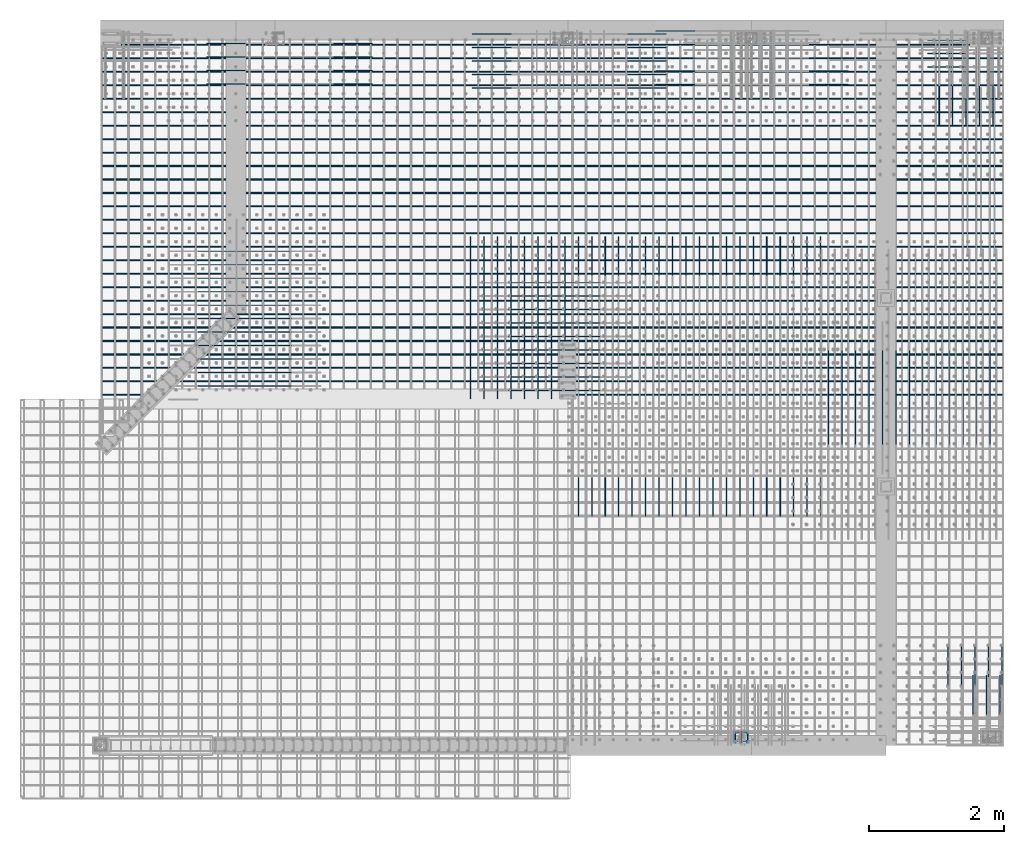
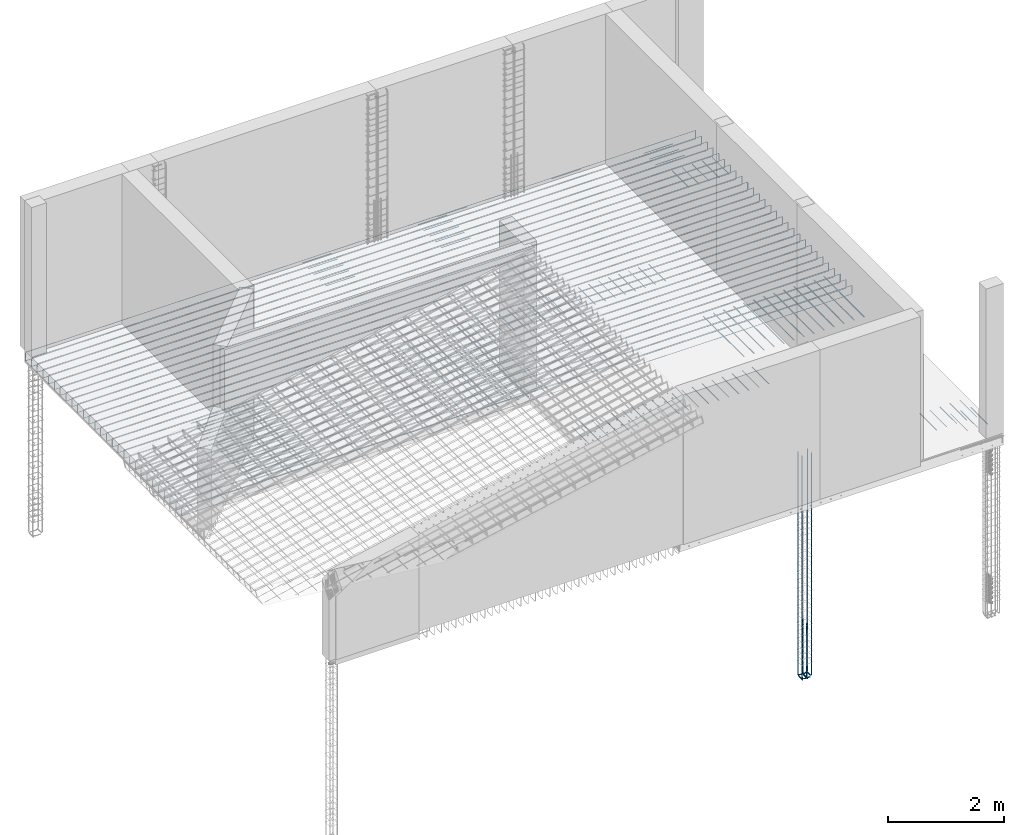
# One storey, part 8 of 17: 8 reinforcing bars.
"""IFC4 building model written with IfcOpenShell, lengths in metres."""

from ifc_helpers import new_model, entity, si_unit, frame, origin_with_axes, place, context, project, spatial, source, transform, mapped, element, save


model = new_model("IFC4")

# Units and contexts
model_context = context("Model", 3, precision=1e-05, world=origin_with_axes())
ifc_project = project(units=[si_unit("LENGTHUNIT", "METRE"), si_unit("AREAUNIT", "SQUARE_METRE"), si_unit("VOLUMEUNIT", "CUBIC_METRE"), si_unit("MASSUNIT", "GRAM", prefix="KILO"), si_unit("TIMEUNIT", "SECOND"), si_unit("PLANEANGLEUNIT", "RADIAN"), si_unit("SOLIDANGLEUNIT", "STERADIAN"), si_unit("THERMODYNAMICTEMPERATUREUNIT", "DEGREE_CELSIUS")], contexts=[model_context])

# Site, building, storey
placement_1 = place(None, origin_with_axes())
site = spatial("IfcSite", under=ifc_project, at=placement_1, Name="Italia", CompositionType="ELEMENT")
building = spatial("IfcBuilding", under=site, at=placement_1, Name="Abitazione", CompositionType="ELEMENT")
storey_placement = place(None, frame((0.0, 0.0, 3.569999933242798), z_axis=(0.0, 0.0, 1.0), x_axis=(1.0, 0.0, 0.0)))
storey = spatial("IfcBuildingStorey", under=building, at=storey_placement, Name="Storey 1", CompositionType="ELEMENT", Elevation=3.569999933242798)

# Reinforcing bars
shared_shape_1 = source(origin_with_axes(), model_context, "Body", "AdvancedSweptSolid", [
    entity("IfcSweptDiskSolid", entity("IfcIndexedPolyCurve", entity("IfcCartesianPointList3D", [[10.777, 0.845, -0.265], [10.67, 0.845, -0.265], [10.649, 0.845, -0.260813], [10.6311, 0.845, -0.248891], [10.6192, 0.845, -0.231048], [10.615, 0.845, -0.21], [10.615, 0.845, 0.8975]]), [entity("IfcLineIndex", [1, 2]), entity("IfcLineIndex", [2, 3]), entity("IfcLineIndex", [3, 4]), entity("IfcLineIndex", [4, 5]), entity("IfcLineIndex", [5, 6]), entity("IfcLineIndex", [6, 7])], False), 0.011),
])
placement_2 = place(placement_1, origin_with_axes())
reinforcing_bar_1_placement = place(placement_2, origin_with_axes())
element("IfcReinforcingBar", 1, at=reinforcing_bar_1_placement, inside=storey, BarLength=1.30034, CrossSectionArea=0.00038013, NominalDiameter=0.022, context=model_context, shape_type="MappedRepresentation", body=[
    mapped(shared_shape_1, transform((9.77, 11.6, 0.0), x_axis=(0.0, -1.0, 0.0), y_axis=(1.0, 0.0, 0.0), z_axis=(0.0, 0.0, 1.0), scale=1.0)),
    mapped(shared_shape_1, transform((0.0, 0.0, 0.0), x_axis=(1.0, 0.0, 0.0), y_axis=(0.0, 1.0, 0.0), z_axis=(0.0, 0.0, 1.0), scale=1.0)),
    mapped(shared_shape_1, transform((11.65, -9.77, 0.0), x_axis=(0.0, 1.0, 0.0), y_axis=(-1.0, 0.0, 0.0), z_axis=(0.0, 0.0, 1.0), scale=1.0)),
    mapped(shared_shape_1, transform((21.42, 1.83, 0.0), x_axis=(-1.0, 0.0, 0.0), y_axis=(0.0, -1.0, 0.0), z_axis=(0.0, 0.0, 1.0), scale=1.0)),
])
shared_shape_2 = source(origin_with_axes(), model_context, "Body", "AdvancedSweptSolid", [
    entity("IfcSweptDiskSolid", entity("IfcIndexedPolyCurve", entity("IfcCartesianPointList3D", [[10.71, 0.826, -0.265], [10.71, 0.948, -0.265], [10.71, 0.963307, -0.261955], [10.71, 0.976284, -0.253284], [10.71, 0.984955, -0.240307], [10.71, 0.988, -0.225], [10.71, 0.988, 0.8975]]), [entity("IfcLineIndex", [1, 2]), entity("IfcLineIndex", [2, 3]), entity("IfcLineIndex", [3, 4]), entity("IfcLineIndex", [4, 5]), entity("IfcLineIndex", [5, 6]), entity("IfcLineIndex", [6, 7])], False), 0.008),
])
reinforcing_bar_2_placement = place(placement_2, origin_with_axes())
element("IfcReinforcingBar", 2, at=reinforcing_bar_2_placement, inside=storey, BarLength=1.30693, CrossSectionArea=0.00020106, NominalDiameter=0.016, context=model_context, shape_type="MappedRepresentation", body=[
    mapped(shared_shape_2, transform((21.42, 1.83, 0.0), x_axis=(-1.0, 0.0, 0.0), y_axis=(0.0, -1.0, 0.0), z_axis=(0.0, 0.0, 1.0), scale=1.0)),
    mapped(shared_shape_2, transform((0.0, 0.0, 0.0), x_axis=(1.0, 0.0, 0.0), y_axis=(0.0, 1.0, 0.0), z_axis=(0.0, 0.0, 1.0), scale=1.0)),
])
shared_shape_3 = source(origin_with_axes(), model_context, "Body", "AdvancedSweptSolid", [
    entity("IfcSweptDiskSolid", entity("IfcIndexedPolyCurve", entity("IfcCartesianPointList3D", [[10.615, 0.845, 0.0], [10.615, 0.845, 4.45]]), [entity("IfcLineIndex", [1, 2])], False), 0.011),
])
reinforcing_bar_3_placement = place(placement_2, origin_with_axes())
element("IfcReinforcingBar", 3, at=reinforcing_bar_3_placement, inside=storey, BarLength=4.45, CrossSectionArea=0.00038013, NominalDiameter=0.022, context=model_context, shape_type="MappedRepresentation", body=[
    mapped(shared_shape_3, transform((0.0, 0.14, 0.0), x_axis=(1.0, 0.0, 0.0), y_axis=(0.0, 1.0, 0.0), z_axis=(0.0, 0.0, 1.0), scale=1.0)),
    mapped(shared_shape_3, transform((0.0, 0.0, 0.0), x_axis=(1.0, 0.0, 0.0), y_axis=(0.0, 1.0, 0.0), z_axis=(0.0, 0.0, 1.0), scale=1.0)),
    mapped(shared_shape_3, transform((0.19, 0.0, 0.0), x_axis=(1.0, 0.0, 0.0), y_axis=(0.0, 1.0, 0.0), z_axis=(0.0, 0.0, 1.0), scale=1.0)),
    mapped(shared_shape_3, transform((0.19, 0.14, 0.0), x_axis=(1.0, 0.0, 0.0), y_axis=(0.0, 1.0, 0.0), z_axis=(0.0, 0.0, 1.0), scale=1.0)),
])
shared_shape_4 = source(origin_with_axes(), model_context, "Body", "AdvancedSweptSolid", [
    entity("IfcSweptDiskSolid", entity("IfcIndexedPolyCurve", entity("IfcCartesianPointList3D", [[1.202, 5.994, 3.374], [1.202, 5.994, 3.53], [1.20276, 5.994, 3.53383], [1.20493, 5.994, 3.53707], [1.20817, 5.994, 3.53924], [1.212, 5.994, 3.54], [14.576, 5.994, 3.54], [14.5798, 5.994, 3.53924], [14.5831, 5.994, 3.53707], [14.5852, 5.994, 3.53383], [14.586, 5.994, 3.53], [14.586, 5.994, 3.374]]), [entity("IfcLineIndex", [1, 2]), entity("IfcLineIndex", [2, 3]), entity("IfcLineIndex", [3, 4]), entity("IfcLineIndex", [4, 5]), entity("IfcLineIndex", [5, 6]), entity("IfcLineIndex", [6, 7]), entity("IfcLineIndex", [7, 8]), entity("IfcLineIndex", [8, 9]), entity("IfcLineIndex", [9, 10]), entity("IfcLineIndex", [10, 11]), entity("IfcLineIndex", [11, 12])], False), 0.006),
])
reinforcing_bar_4_placement = place(placement_2, origin_with_axes())
element("IfcReinforcingBar", 4, at=reinforcing_bar_4_placement, inside=storey, BarLength=13.7072, CrossSectionArea=0.0001131, NominalDiameter=0.012, context=model_context, shape_type="MappedRepresentation", body=[
    mapped(shared_shape_4, transform((0.0, 13.6, 6.89), x_axis=(1.0, 0.0, 0.0), y_axis=(0.0, -1.0, 0.0), z_axis=(0.0, 0.0, -1.0), scale=1.0)),
    mapped(shared_shape_4, transform((0.0, 13.4, 6.89), x_axis=(1.0, 0.0, 0.0), y_axis=(0.0, -1.0, 0.0), z_axis=(0.0, 0.0, -1.0), scale=1.0)),
    mapped(shared_shape_4, transform((0.0, 13.8, 6.89), x_axis=(1.0, 0.0, 0.0), y_axis=(0.0, -1.0, 0.0), z_axis=(0.0, 0.0, -1.0), scale=1.0)),
    mapped(shared_shape_4, transform((0.0, 14.2, 6.89), x_axis=(1.0, 0.0, 0.0), y_axis=(0.0, -1.0, 0.0), z_axis=(0.0, 0.0, -1.0), scale=1.0)),
    mapped(shared_shape_4, transform((0.0, 14.0, 6.89), x_axis=(1.0, 0.0, 0.0), y_axis=(0.0, -1.0, 0.0), z_axis=(0.0, 0.0, -1.0), scale=1.0)),
    mapped(shared_shape_4, transform((0.0, 14.4, 6.89), x_axis=(1.0, 0.0, 0.0), y_axis=(0.0, -1.0, 0.0), z_axis=(0.0, 0.0, -1.0), scale=1.0)),
    mapped(shared_shape_4, transform((0.0, 12.0, 6.89), x_axis=(1.0, 0.0, 0.0), y_axis=(0.0, -1.0, 0.0), z_axis=(0.0, 0.0, -1.0), scale=1.0)),
    mapped(shared_shape_4, transform((0.0, 14.6, 6.89), x_axis=(1.0, 0.0, 0.0), y_axis=(0.0, -1.0, 0.0), z_axis=(0.0, 0.0, -1.0), scale=1.0)),
    mapped(shared_shape_4, transform((0.0, 12.2, 6.89), x_axis=(1.0, 0.0, 0.0), y_axis=(0.0, -1.0, 0.0), z_axis=(0.0, 0.0, -1.0), scale=1.0)),
    mapped(shared_shape_4, transform((0.0, 12.6, 6.89), x_axis=(1.0, 0.0, 0.0), y_axis=(0.0, -1.0, 0.0), z_axis=(0.0, 0.0, -1.0), scale=1.0)),
    mapped(shared_shape_4, transform((0.0, 12.4, 6.89), x_axis=(1.0, 0.0, 0.0), y_axis=(0.0, -1.0, 0.0), z_axis=(0.0, 0.0, -1.0), scale=1.0)),
    mapped(shared_shape_4, transform((0.0, 12.8, 6.89), x_axis=(1.0, 0.0, 0.0), y_axis=(0.0, -1.0, 0.0), z_axis=(0.0, 0.0, -1.0), scale=1.0)),
    mapped(shared_shape_4, transform((0.0, 13.2, 6.89), x_axis=(1.0, 0.0, 0.0), y_axis=(0.0, -1.0, 0.0), z_axis=(0.0, 0.0, -1.0), scale=1.0)),
    mapped(shared_shape_4, transform((0.0, 13.0, 6.89), x_axis=(1.0, 0.0, 0.0), y_axis=(0.0, -1.0, 0.0), z_axis=(0.0, 0.0, -1.0), scale=1.0)),
    mapped(shared_shape_4, transform((0.0, 16.2, 6.89), x_axis=(1.0, 0.0, 0.0), y_axis=(0.0, -1.0, 0.0), z_axis=(0.0, 0.0, -1.0), scale=1.0)),
    mapped(shared_shape_4, transform((0.0, 16.6, 6.89), x_axis=(1.0, 0.0, 0.0), y_axis=(0.0, -1.0, 0.0), z_axis=(0.0, 0.0, -1.0), scale=1.0)),
    mapped(shared_shape_4, transform((0.0, 16.4, 6.89), x_axis=(1.0, 0.0, 0.0), y_axis=(0.0, -1.0, 0.0), z_axis=(0.0, 0.0, -1.0), scale=1.0)),
    mapped(shared_shape_4, transform((0.0, 16.8, 6.89), x_axis=(1.0, 0.0, 0.0), y_axis=(0.0, -1.0, 0.0), z_axis=(0.0, 0.0, -1.0), scale=1.0)),
    mapped(shared_shape_4, transform((0.0, 17.2, 6.89), x_axis=(1.0, 0.0, 0.0), y_axis=(0.0, -1.0, 0.0), z_axis=(0.0, 0.0, -1.0), scale=1.0)),
    mapped(shared_shape_4, transform((0.0, 17.0, 6.89), x_axis=(1.0, 0.0, 0.0), y_axis=(0.0, -1.0, 0.0), z_axis=(0.0, 0.0, -1.0), scale=1.0)),
    mapped(shared_shape_4, transform((0.0, 17.4, 6.89), x_axis=(1.0, 0.0, 0.0), y_axis=(0.0, -1.0, 0.0), z_axis=(0.0, 0.0, -1.0), scale=1.0)),
    mapped(shared_shape_4, transform((0.0, 15.0, 6.89), x_axis=(1.0, 0.0, 0.0), y_axis=(0.0, -1.0, 0.0), z_axis=(0.0, 0.0, -1.0), scale=1.0)),
    mapped(shared_shape_4, transform((0.0, 14.8, 6.89), x_axis=(1.0, 0.0, 0.0), y_axis=(0.0, -1.0, 0.0), z_axis=(0.0, 0.0, -1.0), scale=1.0)),
    mapped(shared_shape_4, transform((0.0, 15.2, 6.89), x_axis=(1.0, 0.0, 0.0), y_axis=(0.0, -1.0, 0.0), z_axis=(0.0, 0.0, -1.0), scale=1.0)),
    mapped(shared_shape_4, transform((0.0, 15.6, 6.89), x_axis=(1.0, 0.0, 0.0), y_axis=(0.0, -1.0, 0.0), z_axis=(0.0, 0.0, -1.0), scale=1.0)),
    mapped(shared_shape_4, transform((0.0, 15.4, 6.89), x_axis=(1.0, 0.0, 0.0), y_axis=(0.0, -1.0, 0.0), z_axis=(0.0, 0.0, -1.0), scale=1.0)),
    mapped(shared_shape_4, transform((0.0, 15.8, 6.89), x_axis=(1.0, 0.0, 0.0), y_axis=(0.0, -1.0, 0.0), z_axis=(0.0, 0.0, -1.0), scale=1.0)),
    mapped(shared_shape_4, transform((0.0, 1.4, 0.0), x_axis=(1.0, 0.0, 0.0), y_axis=(0.0, 1.0, 0.0), z_axis=(0.0, 0.0, 1.0), scale=1.0)),
    mapped(shared_shape_4, transform((0.0, 16.0, 6.89), x_axis=(1.0, 0.0, 0.0), y_axis=(0.0, -1.0, 0.0), z_axis=(0.0, 0.0, -1.0), scale=1.0)),
    mapped(shared_shape_4, transform((0.0, 1.6, 0.0), x_axis=(1.0, 0.0, 0.0), y_axis=(0.0, 1.0, 0.0), z_axis=(0.0, 0.0, 1.0), scale=1.0)),
    mapped(shared_shape_4, transform((0.0, 2.0, 0.0), x_axis=(1.0, 0.0, 0.0), y_axis=(0.0, 1.0, 0.0), z_axis=(0.0, 0.0, 1.0), scale=1.0)),
    mapped(shared_shape_4, transform((0.0, 1.8, 0.0), x_axis=(1.0, 0.0, 0.0), y_axis=(0.0, 1.0, 0.0), z_axis=(0.0, 0.0, 1.0), scale=1.0)),
    mapped(shared_shape_4, transform((0.0, 2.2, 0.0), x_axis=(1.0, 0.0, 0.0), y_axis=(0.0, 1.0, 0.0), z_axis=(0.0, 0.0, 1.0), scale=1.0)),
    mapped(shared_shape_4, transform((0.0, 2.6, 0.0), x_axis=(1.0, 0.0, 0.0), y_axis=(0.0, 1.0, 0.0), z_axis=(0.0, 0.0, 1.0), scale=1.0)),
    mapped(shared_shape_4, transform((0.0, 2.4, 0.0), x_axis=(1.0, 0.0, 0.0), y_axis=(0.0, 1.0, 0.0), z_axis=(0.0, 0.0, 1.0), scale=1.0)),
    mapped(shared_shape_4, transform((0.0, 0.0, 0.0), x_axis=(1.0, 0.0, 0.0), y_axis=(0.0, 1.0, 0.0), z_axis=(0.0, 0.0, 1.0), scale=1.0)),
    mapped(shared_shape_4, transform((0.0, 0.4, 0.0), x_axis=(1.0, 0.0, 0.0), y_axis=(0.0, 1.0, 0.0), z_axis=(0.0, 0.0, 1.0), scale=1.0)),
    mapped(shared_shape_4, transform((0.0, 0.2, 0.0), x_axis=(1.0, 0.0, 0.0), y_axis=(0.0, 1.0, 0.0), z_axis=(0.0, 0.0, 1.0), scale=1.0)),
    mapped(shared_shape_4, transform((0.0, 0.599999, 0.0), x_axis=(1.0, 0.0, 0.0), y_axis=(0.0, 1.0, 0.0), z_axis=(0.0, 0.0, 1.0), scale=1.0)),
    mapped(shared_shape_4, transform((0.0, 0.999999, 0.0), x_axis=(1.0, 0.0, 0.0), y_axis=(0.0, 1.0, 0.0), z_axis=(0.0, 0.0, 1.0), scale=1.0)),
    mapped(shared_shape_4, transform((0.0, 0.799999, 0.0), x_axis=(1.0, 0.0, 0.0), y_axis=(0.0, 1.0, 0.0), z_axis=(0.0, 0.0, 1.0), scale=1.0)),
    mapped(shared_shape_4, transform((0.0, 1.2, 0.0), x_axis=(1.0, 0.0, 0.0), y_axis=(0.0, 1.0, 0.0), z_axis=(0.0, 0.0, 1.0), scale=1.0)),
    mapped(shared_shape_4, transform((0.0, 4.4, 0.0), x_axis=(1.0, 0.0, 0.0), y_axis=(0.0, 1.0, 0.0), z_axis=(0.0, 0.0, 1.0), scale=1.0)),
    mapped(shared_shape_4, transform((0.0, 4.2, 0.0), x_axis=(1.0, 0.0, 0.0), y_axis=(0.0, 1.0, 0.0), z_axis=(0.0, 0.0, 1.0), scale=1.0)),
    mapped(shared_shape_4, transform((0.0, 4.6, 0.0), x_axis=(1.0, 0.0, 0.0), y_axis=(0.0, 1.0, 0.0), z_axis=(0.0, 0.0, 1.0), scale=1.0)),
    mapped(shared_shape_4, transform((0.0, 5.0, 0.0), x_axis=(1.0, 0.0, 0.0), y_axis=(0.0, 1.0, 0.0), z_axis=(0.0, 0.0, 1.0), scale=1.0)),
    mapped(shared_shape_4, transform((0.0, 4.8, 0.0), x_axis=(1.0, 0.0, 0.0), y_axis=(0.0, 1.0, 0.0), z_axis=(0.0, 0.0, 1.0), scale=1.0)),
    mapped(shared_shape_4, transform((0.0, 5.2, 0.0), x_axis=(1.0, 0.0, 0.0), y_axis=(0.0, 1.0, 0.0), z_axis=(0.0, 0.0, 1.0), scale=1.0)),
    mapped(shared_shape_4, transform((0.0, 2.8, 0.0), x_axis=(1.0, 0.0, 0.0), y_axis=(0.0, 1.0, 0.0), z_axis=(0.0, 0.0, 1.0), scale=1.0)),
    mapped(shared_shape_4, transform((0.0, 5.4, 0.0), x_axis=(1.0, 0.0, 0.0), y_axis=(0.0, 1.0, 0.0), z_axis=(0.0, 0.0, 1.0), scale=1.0)),
    mapped(shared_shape_4, transform((0.0, 3.0, 0.0), x_axis=(1.0, 0.0, 0.0), y_axis=(0.0, 1.0, 0.0), z_axis=(0.0, 0.0, 1.0), scale=1.0)),
    mapped(shared_shape_4, transform((0.0, 3.4, 0.0), x_axis=(1.0, 0.0, 0.0), y_axis=(0.0, 1.0, 0.0), z_axis=(0.0, 0.0, 1.0), scale=1.0)),
    mapped(shared_shape_4, transform((0.0, 3.2, 0.0), x_axis=(1.0, 0.0, 0.0), y_axis=(0.0, 1.0, 0.0), z_axis=(0.0, 0.0, 1.0), scale=1.0)),
    mapped(shared_shape_4, transform((0.0, 3.6, 0.0), x_axis=(1.0, 0.0, 0.0), y_axis=(0.0, 1.0, 0.0), z_axis=(0.0, 0.0, 1.0), scale=1.0)),
    mapped(shared_shape_4, transform((0.0, 4.0, 0.0), x_axis=(1.0, 0.0, 0.0), y_axis=(0.0, 1.0, 0.0), z_axis=(0.0, 0.0, 1.0), scale=1.0)),
    mapped(shared_shape_4, transform((0.0, 3.8, 0.0), x_axis=(1.0, 0.0, 0.0), y_axis=(0.0, 1.0, 0.0), z_axis=(0.0, 0.0, 1.0), scale=1.0)),
])
shared_shape_5 = source(origin_with_axes(), model_context, "Body", "AdvancedSweptSolid", [
    entity("IfcSweptDiskSolid", entity("IfcIndexedPolyCurve", entity("IfcCartesianPointList3D", [[9.0176, 10.5614, 3.516], [9.60033, 10.5614, 3.516]]), [entity("IfcLineIndex", [1, 2])], False), 0.008),
])
reinforcing_bar_5_placement = place(placement_2, origin_with_axes())
element("IfcReinforcingBar", 5, at=reinforcing_bar_5_placement, inside=storey, BarLength=0.582727, CrossSectionArea=0.00020106, NominalDiameter=0.016, context=model_context, shape_type="MappedRepresentation", body=[
    mapped(shared_shape_5, transform((20.6482, -1.24743, -0.0160005), x_axis=(0.0, 1.0, 0.0), y_axis=(-1.0, 0.0, 0.0), z_axis=(0.0, 0.0, 1.0), scale=1.0)),
    mapped(shared_shape_5, transform((20.4482, -1.24743, -0.0160005), x_axis=(0.0, 1.0, 0.0), y_axis=(-1.0, 0.0, 0.0), z_axis=(0.0, 0.0, 1.0), scale=1.0)),
    mapped(shared_shape_5, transform((19.4482, -4.82606, -0.0160005), x_axis=(0.0, 1.0, 0.0), y_axis=(-1.0, 0.0, 0.0), z_axis=(0.0, 0.0, 1.0), scale=1.0)),
    mapped(shared_shape_5, transform((20.8482, -1.24743, -0.0160005), x_axis=(0.0, 1.0, 0.0), y_axis=(-1.0, 0.0, 0.0), z_axis=(0.0, 0.0, 1.0), scale=1.0)),
    mapped(shared_shape_5, transform((19.4482, -1.24743, -0.0160005), x_axis=(0.0, 1.0, 0.0), y_axis=(-1.0, 0.0, 0.0), z_axis=(0.0, 0.0, 1.0), scale=1.0)),
    mapped(shared_shape_5, transform((19.6482, -4.82606, -0.0160005), x_axis=(0.0, 1.0, 0.0), y_axis=(-1.0, 0.0, 0.0), z_axis=(0.0, 0.0, 1.0), scale=1.0)),
    mapped(shared_shape_5, transform((19.8482, -1.24743, -0.0160005), x_axis=(0.0, 1.0, 0.0), y_axis=(-1.0, 0.0, 0.0), z_axis=(0.0, 0.0, 1.0), scale=1.0)),
    mapped(shared_shape_5, transform((19.6482, -1.24743, -0.0160005), x_axis=(0.0, 1.0, 0.0), y_axis=(-1.0, 0.0, 0.0), z_axis=(0.0, 0.0, 1.0), scale=1.0)),
    mapped(shared_shape_5, transform((20.2482, -1.24743, -0.0160005), x_axis=(0.0, 1.0, 0.0), y_axis=(-1.0, 0.0, 0.0), z_axis=(0.0, 0.0, 1.0), scale=1.0)),
    mapped(shared_shape_5, transform((20.0482, -1.24743, -0.0160005), x_axis=(0.0, 1.0, 0.0), y_axis=(-1.0, 0.0, 0.0), z_axis=(0.0, 0.0, 1.0), scale=1.0)),
    mapped(shared_shape_5, transform((19.2482, -4.82606, -0.0160005), x_axis=(0.0, 1.0, 0.0), y_axis=(-1.0, 0.0, 0.0), z_axis=(0.0, 0.0, 1.0), scale=1.0)),
    mapped(shared_shape_5, transform((19.0482, -4.82606, -0.0160005), x_axis=(0.0, 1.0, 0.0), y_axis=(-1.0, 0.0, 0.0), z_axis=(0.0, 0.0, 1.0), scale=1.0)),
    mapped(shared_shape_5, transform((21.2482, -1.24743, -0.0160005), x_axis=(0.0, 1.0, 0.0), y_axis=(-1.0, 0.0, 0.0), z_axis=(0.0, 0.0, 1.0), scale=1.0)),
    mapped(shared_shape_5, transform((21.0482, -1.24743, -0.0160005), x_axis=(0.0, 1.0, 0.0), y_axis=(-1.0, 0.0, 0.0), z_axis=(0.0, 0.0, 1.0), scale=1.0)),
    mapped(shared_shape_5, transform((21.8482, -1.24743, -0.0160005), x_axis=(0.0, 1.0, 0.0), y_axis=(-1.0, 0.0, 0.0), z_axis=(0.0, 0.0, 1.0), scale=1.0)),
    mapped(shared_shape_5, transform((19.2482, -1.24743, -0.0160005), x_axis=(0.0, 1.0, 0.0), y_axis=(-1.0, 0.0, 0.0), z_axis=(0.0, 0.0, 1.0), scale=1.0)),
    mapped(shared_shape_5, transform((22.2482, -1.24743, -0.0160005), x_axis=(0.0, 1.0, 0.0), y_axis=(-1.0, 0.0, 0.0), z_axis=(0.0, 0.0, 1.0), scale=1.0)),
    mapped(shared_shape_5, transform((22.0482, -1.24743, -0.0160005), x_axis=(0.0, 1.0, 0.0), y_axis=(-1.0, 0.0, 0.0), z_axis=(0.0, 0.0, 1.0), scale=1.0)),
    mapped(shared_shape_5, transform((18.8482, -4.82606, -0.0160005), x_axis=(0.0, 1.0, 0.0), y_axis=(-1.0, 0.0, 0.0), z_axis=(0.0, 0.0, 1.0), scale=1.0)),
    mapped(shared_shape_5, transform((22.4482, -1.24743, -0.0160005), x_axis=(0.0, 1.0, 0.0), y_axis=(-1.0, 0.0, 0.0), z_axis=(0.0, 0.0, 1.0), scale=1.0)),
    mapped(shared_shape_5, transform((18.8482, -1.24743, -0.0160005), x_axis=(0.0, 1.0, 0.0), y_axis=(-1.0, 0.0, 0.0), z_axis=(0.0, 0.0, 1.0), scale=1.0)),
    mapped(shared_shape_5, transform((-2.30864, 0.799999, 0.0), x_axis=(1.0, 0.0, 0.0), y_axis=(0.0, 1.0, 0.0), z_axis=(0.0, 0.0, 1.0), scale=1.0)),
    mapped(shared_shape_5, transform((21.4482, -1.24743, -0.0160005), x_axis=(0.0, 1.0, 0.0), y_axis=(-1.0, 0.0, 0.0), z_axis=(0.0, 0.0, 1.0), scale=1.0)),
    mapped(shared_shape_5, transform((19.0482, -1.24743, -0.0160005), x_axis=(0.0, 1.0, 0.0), y_axis=(-1.0, 0.0, 0.0), z_axis=(0.0, 0.0, 1.0), scale=1.0)),
    mapped(shared_shape_5, transform((0.0, 0.799999, 0.0), x_axis=(1.0, 0.0, 0.0), y_axis=(0.0, 1.0, 0.0), z_axis=(0.0, 0.0, 1.0), scale=1.0)),
    mapped(shared_shape_5, transform((21.6482, -1.24743, -0.0160005), x_axis=(0.0, 1.0, 0.0), y_axis=(-1.0, 0.0, 0.0), z_axis=(0.0, 0.0, 1.0), scale=1.0)),
    mapped(shared_shape_5, transform((-2.30864, 0.2, 0.0), x_axis=(1.0, 0.0, 0.0), y_axis=(0.0, 1.0, 0.0), z_axis=(0.0, 0.0, 1.0), scale=1.0)),
    mapped(shared_shape_5, transform((-2.30864, 0.0, 0.0), x_axis=(1.0, 0.0, 0.0), y_axis=(0.0, 1.0, 0.0), z_axis=(0.0, 0.0, 1.0), scale=1.0)),
    mapped(shared_shape_5, transform((-2.30864, 0.599999, 0.0), x_axis=(1.0, 0.0, 0.0), y_axis=(0.0, 1.0, 0.0), z_axis=(0.0, 0.0, 1.0), scale=1.0)),
    mapped(shared_shape_5, transform((-2.30864, 0.4, 0.0), x_axis=(1.0, 0.0, 0.0), y_axis=(0.0, 1.0, 0.0), z_axis=(0.0, 0.0, 1.0), scale=1.0)),
    mapped(shared_shape_5, transform((24.9159, -7.76646, -0.0160005), x_axis=(0.0, 1.0, 0.0), y_axis=(-1.0, 0.0, 0.0), z_axis=(0.0, 0.0, 1.0), scale=1.0)),
    mapped(shared_shape_5, transform((24.7159, -7.76646, -0.0160005), x_axis=(0.0, 1.0, 0.0), y_axis=(-1.0, 0.0, 0.0), z_axis=(0.0, 0.0, 1.0), scale=1.0)),
    mapped(shared_shape_5, transform((0.0, 0.4, 0.0), x_axis=(1.0, 0.0, 0.0), y_axis=(0.0, 1.0, 0.0), z_axis=(0.0, 0.0, 1.0), scale=1.0)),
    mapped(shared_shape_5, transform((0.0, 0.2, 0.0), x_axis=(1.0, 0.0, 0.0), y_axis=(0.0, 1.0, 0.0), z_axis=(0.0, 0.0, 1.0), scale=1.0)),
    mapped(shared_shape_5, transform((17.8482, -1.24743, -0.0160005), x_axis=(0.0, 1.0, 0.0), y_axis=(-1.0, 0.0, 0.0), z_axis=(0.0, 0.0, 1.0), scale=1.0)),
    mapped(shared_shape_5, transform((0.0, 0.599999, 0.0), x_axis=(1.0, 0.0, 0.0), y_axis=(0.0, 1.0, 0.0), z_axis=(0.0, 0.0, 1.0), scale=1.0)),
    mapped(shared_shape_5, transform((18.2482, -1.24743, -0.0160005), x_axis=(0.0, 1.0, 0.0), y_axis=(-1.0, 0.0, 0.0), z_axis=(0.0, 0.0, 1.0), scale=1.0)),
    mapped(shared_shape_5, transform((18.0482, -1.24743, -0.0160005), x_axis=(0.0, 1.0, 0.0), y_axis=(-1.0, 0.0, 0.0), z_axis=(0.0, 0.0, 1.0), scale=1.0)),
    mapped(shared_shape_5, transform((18.6482, -1.24743, -0.0160005), x_axis=(0.0, 1.0, 0.0), y_axis=(-1.0, 0.0, 0.0), z_axis=(0.0, 0.0, 1.0), scale=1.0)),
    mapped(shared_shape_5, transform((18.4482, -1.24743, -0.0160005), x_axis=(0.0, 1.0, 0.0), y_axis=(-1.0, 0.0, 0.0), z_axis=(0.0, 0.0, 1.0), scale=1.0)),
    mapped(shared_shape_5, transform((25.1159, -7.76646, -0.0160005), x_axis=(0.0, 1.0, 0.0), y_axis=(-1.0, 0.0, 0.0), z_axis=(0.0, 0.0, 1.0), scale=1.0)),
    mapped(shared_shape_5, transform((0.0, 0.0, 0.0), x_axis=(1.0, 0.0, 0.0), y_axis=(0.0, 1.0, 0.0), z_axis=(0.0, 0.0, 1.0), scale=1.0)),
    mapped(shared_shape_5, transform((17.4482, -1.24743, -0.0160005), x_axis=(0.0, 1.0, 0.0), y_axis=(-1.0, 0.0, 0.0), z_axis=(0.0, 0.0, 1.0), scale=1.0)),
    mapped(shared_shape_5, transform((17.2482, -1.24743, -0.0160005), x_axis=(0.0, 1.0, 0.0), y_axis=(-1.0, 0.0, 0.0), z_axis=(0.0, 0.0, 1.0), scale=1.0)),
    mapped(shared_shape_5, transform((2.69793, 0.446716, 0.0), x_axis=(1.0, 0.0, 0.0), y_axis=(0.0, 1.0, 0.0), z_axis=(0.0, 0.0, 1.0), scale=1.0)),
    mapped(shared_shape_5, transform((17.6482, -1.24743, -0.0160005), x_axis=(0.0, 1.0, 0.0), y_axis=(-1.0, 0.0, 0.0), z_axis=(0.0, 0.0, 1.0), scale=1.0)),
    mapped(shared_shape_5, transform((2.69793, 0.846716, 0.0), x_axis=(1.0, 0.0, 0.0), y_axis=(0.0, 1.0, 0.0), z_axis=(0.0, 0.0, 1.0), scale=1.0)),
    mapped(shared_shape_5, transform((2.69793, 0.646716, 0.0), x_axis=(1.0, 0.0, 0.0), y_axis=(0.0, 1.0, 0.0), z_axis=(0.0, 0.0, 1.0), scale=1.0)),
    mapped(shared_shape_5, transform((25.1431, -7.34638, -0.130001), x_axis=(0.0, 1.0, 0.0), y_axis=(-1.0, 0.0, 0.0), z_axis=(0.0, 0.0, 1.0), scale=1.0)),
    mapped(shared_shape_5, transform((0.419291, 0.0467167, 0.0), x_axis=(1.0, 0.0, 0.0), y_axis=(0.0, 1.0, 0.0), z_axis=(0.0, 0.0, 1.0), scale=1.0)),
    mapped(shared_shape_5, transform((-4.36965, 0.459189, 0.0), x_axis=(1.0, 0.0, 0.0), y_axis=(0.0, 1.0, 0.0), z_axis=(0.0, 0.0, 1.0), scale=1.0)),
    mapped(shared_shape_5, transform((-4.36965, 0.25919, 0.0), x_axis=(1.0, 0.0, 0.0), y_axis=(0.0, 1.0, 0.0), z_axis=(0.0, 0.0, 1.0), scale=1.0)),
    mapped(shared_shape_5, transform((2.69793, 0.0467167, 0.0), x_axis=(1.0, 0.0, 0.0), y_axis=(0.0, 1.0, 0.0), z_axis=(0.0, 0.0, 1.0), scale=1.0)),
    mapped(shared_shape_5, transform((-4.36965, 0.659189, 0.0), x_axis=(1.0, 0.0, 0.0), y_axis=(0.0, 1.0, 0.0), z_axis=(0.0, 0.0, 1.0), scale=1.0)),
    mapped(shared_shape_5, transform((2.69793, 0.246716, 0.0), x_axis=(1.0, 0.0, 0.0), y_axis=(0.0, 1.0, 0.0), z_axis=(0.0, 0.0, 1.0), scale=1.0)),
    mapped(shared_shape_5, transform((24.5431, -7.34638, -0.130001), x_axis=(0.0, 1.0, 0.0), y_axis=(-1.0, 0.0, 0.0), z_axis=(0.0, 0.0, 1.0), scale=1.0)),
    mapped(shared_shape_5, transform((24.9431, -7.34638, -0.130001), x_axis=(0.0, 1.0, 0.0), y_axis=(-1.0, 0.0, 0.0), z_axis=(0.0, 0.0, 1.0), scale=1.0)),
    mapped(shared_shape_5, transform((24.7431, -7.34638, -0.130001), x_axis=(0.0, 1.0, 0.0), y_axis=(-1.0, 0.0, 0.0), z_axis=(0.0, 0.0, 1.0), scale=1.0)),
    mapped(shared_shape_5, transform((0.419291, 0.446716, 0.0), x_axis=(1.0, 0.0, 0.0), y_axis=(0.0, 1.0, 0.0), z_axis=(0.0, 0.0, 1.0), scale=1.0)),
    mapped(shared_shape_5, transform((0.419291, 0.246716, 0.0), x_axis=(1.0, 0.0, 0.0), y_axis=(0.0, 1.0, 0.0), z_axis=(0.0, 0.0, 1.0), scale=1.0)),
    mapped(shared_shape_5, transform((4.45792, 0.30977, 0.0), x_axis=(1.0, 0.0, 0.0), y_axis=(0.0, 1.0, 0.0), z_axis=(0.0, 0.0, 1.0), scale=1.0)),
    mapped(shared_shape_5, transform((0.419291, 0.846716, 0.0), x_axis=(1.0, 0.0, 0.0), y_axis=(0.0, 1.0, 0.0), z_axis=(0.0, 0.0, 1.0), scale=1.0)),
    mapped(shared_shape_5, transform((4.45792, 0.709769, 0.0), x_axis=(1.0, 0.0, 0.0), y_axis=(0.0, 1.0, 0.0), z_axis=(0.0, 0.0, 1.0), scale=1.0)),
    mapped(shared_shape_5, transform((4.45792, 0.509769, 0.0), x_axis=(1.0, 0.0, 0.0), y_axis=(0.0, 1.0, 0.0), z_axis=(0.0, 0.0, 1.0), scale=1.0)),
    mapped(shared_shape_5, transform((21.6482, -4.82606, -0.0160005), x_axis=(0.0, 1.0, 0.0), y_axis=(-1.0, 0.0, 0.0), z_axis=(0.0, 0.0, 1.0), scale=1.0)),
    mapped(shared_shape_5, transform((21.8482, -4.82606, -0.0160005), x_axis=(0.0, 1.0, 0.0), y_axis=(-1.0, 0.0, 0.0), z_axis=(0.0, 0.0, 1.0), scale=1.0)),
    mapped(shared_shape_5, transform((-6.25828, 0.659189, 0.0), x_axis=(1.0, 0.0, 0.0), y_axis=(0.0, 1.0, 0.0), z_axis=(0.0, 0.0, 1.0), scale=1.0)),
    mapped(shared_shape_5, transform((-4.36965, 0.0591898, 0.0), x_axis=(1.0, 0.0, 0.0), y_axis=(0.0, 1.0, 0.0), z_axis=(0.0, 0.0, 1.0), scale=1.0)),
    mapped(shared_shape_5, transform((0.419291, 0.646716, 0.0), x_axis=(1.0, 0.0, 0.0), y_axis=(0.0, 1.0, 0.0), z_axis=(0.0, 0.0, 1.0), scale=1.0)),
    mapped(shared_shape_5, transform((20.6482, -4.82606, -0.0160005), x_axis=(0.0, 1.0, 0.0), y_axis=(-1.0, 0.0, 0.0), z_axis=(0.0, 0.0, 1.0), scale=1.0)),
    mapped(shared_shape_5, transform((20.8482, -4.82606, -0.0160005), x_axis=(0.0, 1.0, 0.0), y_axis=(-1.0, 0.0, 0.0), z_axis=(0.0, 0.0, 1.0), scale=1.0)),
    mapped(shared_shape_5, transform((21.0482, -4.82606, -0.0160005), x_axis=(0.0, 1.0, 0.0), y_axis=(-1.0, 0.0, 0.0), z_axis=(0.0, 0.0, 1.0), scale=1.0)),
    mapped(shared_shape_5, transform((21.4482, -4.82606, -0.0160005), x_axis=(0.0, 1.0, 0.0), y_axis=(-1.0, 0.0, 0.0), z_axis=(0.0, 0.0, 1.0), scale=1.0)),
    mapped(shared_shape_5, transform((24.3431, -7.34638, -0.130001), x_axis=(0.0, 1.0, 0.0), y_axis=(-1.0, 0.0, 0.0), z_axis=(0.0, 0.0, 1.0), scale=1.0)),
    mapped(shared_shape_5, transform((24.8113, 0.99219, -0.0160005), x_axis=(0.0, 1.0, 0.0), y_axis=(-1.0, 0.0, 0.0), z_axis=(0.0, 0.0, 1.0), scale=1.0)),
    mapped(shared_shape_5, transform((25.0113, 0.99219, -0.0160005), x_axis=(0.0, 1.0, 0.0), y_axis=(-1.0, 0.0, 0.0), z_axis=(0.0, 0.0, 1.0), scale=1.0)),
    mapped(shared_shape_5, transform((24.4113, 0.99219, -0.0160005), x_axis=(0.0, 1.0, 0.0), y_axis=(-1.0, 0.0, 0.0), z_axis=(0.0, 0.0, 1.0), scale=1.0)),
    mapped(shared_shape_5, transform((22.0482, -4.82606, -0.0160005), x_axis=(0.0, 1.0, 0.0), y_axis=(-1.0, 0.0, 0.0), z_axis=(0.0, 0.0, 1.0), scale=1.0)),
    mapped(shared_shape_5, transform((-6.25828, 0.459189, 0.0), x_axis=(1.0, 0.0, 0.0), y_axis=(0.0, 1.0, 0.0), z_axis=(0.0, 0.0, 1.0), scale=1.0)),
    mapped(shared_shape_5, transform((20.2482, -4.82606, -0.0160005), x_axis=(0.0, 1.0, 0.0), y_axis=(-1.0, 0.0, 0.0), z_axis=(0.0, 0.0, 1.0), scale=1.0)),
    mapped(shared_shape_5, transform((22.2482, -4.82606, -0.0160005), x_axis=(0.0, 1.0, 0.0), y_axis=(-1.0, 0.0, 0.0), z_axis=(0.0, 0.0, 1.0), scale=1.0)),
    mapped(shared_shape_5, transform((24.6113, 0.99219, -0.0160005), x_axis=(0.0, 1.0, 0.0), y_axis=(-1.0, 0.0, 0.0), z_axis=(0.0, 0.0, 1.0), scale=1.0)),
    mapped(shared_shape_5, transform((20.4482, -4.82606, -0.0160005), x_axis=(0.0, 1.0, 0.0), y_axis=(-1.0, 0.0, 0.0), z_axis=(0.0, 0.0, 1.0), scale=1.0)),
    mapped(shared_shape_5, transform((21.2482, -4.82606, -0.0160005), x_axis=(0.0, 1.0, 0.0), y_axis=(-1.0, 0.0, 0.0), z_axis=(0.0, 0.0, 1.0), scale=1.0)),
    mapped(shared_shape_5, transform((-6.25828, 0.0591898, 0.0), x_axis=(1.0, 0.0, 0.0), y_axis=(0.0, 1.0, 0.0), z_axis=(0.0, 0.0, 1.0), scale=1.0)),
    mapped(shared_shape_5, transform((-6.25828, 0.25919, 0.0), x_axis=(1.0, 0.0, 0.0), y_axis=(0.0, 1.0, 0.0), z_axis=(0.0, 0.0, 1.0), scale=1.0)),
    mapped(shared_shape_5, transform((19.8482, -4.82606, -0.0160005), x_axis=(0.0, 1.0, 0.0), y_axis=(-1.0, 0.0, 0.0), z_axis=(0.0, 0.0, 1.0), scale=1.0)),
    mapped(shared_shape_5, transform((20.0482, -4.82606, -0.0160005), x_axis=(0.0, 1.0, 0.0), y_axis=(-1.0, 0.0, 0.0), z_axis=(0.0, 0.0, 1.0), scale=1.0)),
    mapped(shared_shape_5, transform((22.4482, -4.82606, -0.0160005), x_axis=(0.0, 1.0, 0.0), y_axis=(-1.0, 0.0, 0.0), z_axis=(0.0, 0.0, 1.0), scale=1.0)),
    mapped(shared_shape_5, transform((24.2113, 0.99219, -0.0160005), x_axis=(0.0, 1.0, 0.0), y_axis=(-1.0, 0.0, 0.0), z_axis=(0.0, 0.0, 1.0), scale=1.0)),
])
shared_shape_6 = source(origin_with_axes(), model_context, "Body", "AdvancedSweptSolid", [
    entity("IfcSweptDiskSolid", entity("IfcIndexedPolyCurve", entity("IfcCartesianPointList3D", [[6.68682, 5.94, 3.5], [6.68682, 7.77017, 3.5]]), [entity("IfcLineIndex", [1, 2])], False), 0.008),
])
reinforcing_bar_6_placement = place(placement_2, origin_with_axes())
element("IfcReinforcingBar", 6, at=reinforcing_bar_6_placement, inside=storey, BarLength=1.83017, CrossSectionArea=0.00020106, NominalDiameter=0.016, context=model_context, shape_type="MappedRepresentation", body=[
    mapped(shared_shape_6, transform((1.0, 0.0, 0.0), x_axis=(1.0, 0.0, 0.0), y_axis=(0.0, 1.0, 0.0), z_axis=(0.0, 0.0, 1.0), scale=1.0)),
    mapped(shared_shape_6, transform((0.8, 0.0, 0.0), x_axis=(1.0, 0.0, 0.0), y_axis=(0.0, 1.0, 0.0), z_axis=(0.0, 0.0, 1.0), scale=1.0)),
    mapped(shared_shape_6, transform((1.4, 0.0, 0.0), x_axis=(1.0, 0.0, 0.0), y_axis=(0.0, 1.0, 0.0), z_axis=(0.0, 0.0, 1.0), scale=1.0)),
    mapped(shared_shape_6, transform((1.2, 0.0, 0.0), x_axis=(1.0, 0.0, 0.0), y_axis=(0.0, 1.0, 0.0), z_axis=(0.0, 0.0, 1.0), scale=1.0)),
    mapped(shared_shape_6, transform((0.2, 0.0, 0.0), x_axis=(1.0, 0.0, 0.0), y_axis=(0.0, 1.0, 0.0), z_axis=(0.0, 0.0, 1.0), scale=1.0)),
    mapped(shared_shape_6, transform((0.0, 0.0, 0.0), x_axis=(1.0, 0.0, 0.0), y_axis=(0.0, 1.0, 0.0), z_axis=(0.0, 0.0, 1.0), scale=1.0)),
    mapped(shared_shape_6, transform((0.6, 0.0, 0.0), x_axis=(1.0, 0.0, 0.0), y_axis=(0.0, 1.0, 0.0), z_axis=(0.0, 0.0, 1.0), scale=1.0)),
    mapped(shared_shape_6, transform((0.4, 0.0, 0.0), x_axis=(1.0, 0.0, 0.0), y_axis=(0.0, 1.0, 0.0), z_axis=(0.0, 0.0, 1.0), scale=1.0)),
])
shared_shape_7 = source(origin_with_axes(), model_context, "Body", "AdvancedSweptSolid", [
    entity("IfcSweptDiskSolid", entity("IfcIndexedPolyCurve", entity("IfcCartesianPointList3D", [[2.63239, 6.13259, 3.516], [4.0283, 6.13259, 3.516]]), [entity("IfcLineIndex", [1, 2])], False), 0.006),
])
reinforcing_bar_7_placement = place(placement_2, origin_with_axes())
element("IfcReinforcingBar", 7, at=reinforcing_bar_7_placement, inside=storey, BarLength=1.39591, CrossSectionArea=0.0001131, NominalDiameter=0.012, context=model_context, shape_type="MappedRepresentation", body=[
    mapped(shared_shape_7, transform((0.0, 1.6, 0.0), x_axis=(1.0, 0.0, 0.0), y_axis=(0.0, 1.0, 0.0), z_axis=(0.0, 0.0, 1.0), scale=1.0)),
    mapped(shared_shape_7, transform((0.0, 1.4, 0.0), x_axis=(1.0, 0.0, 0.0), y_axis=(0.0, 1.0, 0.0), z_axis=(0.0, 0.0, 1.0), scale=1.0)),
    mapped(shared_shape_7, transform((0.0, 1.2, 0.0), x_axis=(1.0, 0.0, 0.0), y_axis=(0.0, 1.0, 0.0), z_axis=(0.0, 0.0, 1.0), scale=1.0)),
    mapped(shared_shape_7, transform((18.1384, 2.62717, -0.13), x_axis=(0.0, 1.0, 0.0), y_axis=(-1.0, 0.0, 0.0), z_axis=(0.0, 0.0, 1.0), scale=1.0)),
    mapped(shared_shape_7, transform((0.0, 2.0, 0.0), x_axis=(1.0, 0.0, 0.0), y_axis=(0.0, 1.0, 0.0), z_axis=(0.0, 0.0, 1.0), scale=1.0)),
    mapped(shared_shape_7, transform((0.0, 1.8, 0.0), x_axis=(1.0, 0.0, 0.0), y_axis=(0.0, 1.0, 0.0), z_axis=(0.0, 0.0, 1.0), scale=1.0)),
    mapped(shared_shape_7, transform((0.0, 0.399999, 0.0), x_axis=(1.0, 0.0, 0.0), y_axis=(0.0, 1.0, 0.0), z_axis=(0.0, 0.0, 1.0), scale=1.0)),
    mapped(shared_shape_7, transform((0.0, 0.199999, 0.0), x_axis=(1.0, 0.0, 0.0), y_axis=(0.0, 1.0, 0.0), z_axis=(0.0, 0.0, 1.0), scale=1.0)),
    mapped(shared_shape_7, transform((0.0, 0.0, 0.0), x_axis=(1.0, 0.0, 0.0), y_axis=(0.0, 1.0, 0.0), z_axis=(0.0, 0.0, 1.0), scale=1.0)),
    mapped(shared_shape_7, transform((0.0, 0.999999, 0.0), x_axis=(1.0, 0.0, 0.0), y_axis=(0.0, 1.0, 0.0), z_axis=(0.0, 0.0, 1.0), scale=1.0)),
    mapped(shared_shape_7, transform((0.0, 0.799999, 0.0), x_axis=(1.0, 0.0, 0.0), y_axis=(0.0, 1.0, 0.0), z_axis=(0.0, 0.0, 1.0), scale=1.0)),
    mapped(shared_shape_7, transform((0.0, 0.599999, 0.0), x_axis=(1.0, 0.0, 0.0), y_axis=(0.0, 1.0, 0.0), z_axis=(0.0, 0.0, 1.0), scale=1.0)),
    mapped(shared_shape_7, transform((19.9384, 2.62717, -0.13), x_axis=(0.0, 1.0, 0.0), y_axis=(-1.0, 0.0, 0.0), z_axis=(0.0, 0.0, 1.0), scale=1.0)),
    mapped(shared_shape_7, transform((19.7384, 2.62717, -0.13), x_axis=(0.0, 1.0, 0.0), y_axis=(-1.0, 0.0, 0.0), z_axis=(0.0, 0.0, 1.0), scale=1.0)),
    mapped(shared_shape_7, transform((19.5384, 2.62717, -0.13), x_axis=(0.0, 1.0, 0.0), y_axis=(-1.0, 0.0, 0.0), z_axis=(0.0, 0.0, 1.0), scale=1.0)),
    mapped(shared_shape_7, transform((20.5384, 2.62717, -0.13), x_axis=(0.0, 1.0, 0.0), y_axis=(-1.0, 0.0, 0.0), z_axis=(0.0, 0.0, 1.0), scale=1.0)),
    mapped(shared_shape_7, transform((20.3384, 2.62717, -0.13), x_axis=(0.0, 1.0, 0.0), y_axis=(-1.0, 0.0, 0.0), z_axis=(0.0, 0.0, 1.0), scale=1.0)),
    mapped(shared_shape_7, transform((20.1384, 2.62717, -0.13), x_axis=(0.0, 1.0, 0.0), y_axis=(-1.0, 0.0, 0.0), z_axis=(0.0, 0.0, 1.0), scale=1.0)),
    mapped(shared_shape_7, transform((18.7384, 2.62717, -0.13), x_axis=(0.0, 1.0, 0.0), y_axis=(-1.0, 0.0, 0.0), z_axis=(0.0, 0.0, 1.0), scale=1.0)),
    mapped(shared_shape_7, transform((18.5384, 2.62717, -0.13), x_axis=(0.0, 1.0, 0.0), y_axis=(-1.0, 0.0, 0.0), z_axis=(0.0, 0.0, 1.0), scale=1.0)),
    mapped(shared_shape_7, transform((18.3384, 2.62717, -0.13), x_axis=(0.0, 1.0, 0.0), y_axis=(-1.0, 0.0, 0.0), z_axis=(0.0, 0.0, 1.0), scale=1.0)),
    mapped(shared_shape_7, transform((19.3384, 2.62717, -0.13), x_axis=(0.0, 1.0, 0.0), y_axis=(-1.0, 0.0, 0.0), z_axis=(0.0, 0.0, 1.0), scale=1.0)),
    mapped(shared_shape_7, transform((19.1384, 2.62717, -0.13), x_axis=(0.0, 1.0, 0.0), y_axis=(-1.0, 0.0, 0.0), z_axis=(0.0, 0.0, 1.0), scale=1.0)),
    mapped(shared_shape_7, transform((18.9384, 2.62717, -0.13), x_axis=(0.0, 1.0, 0.0), y_axis=(-1.0, 0.0, 0.0), z_axis=(0.0, 0.0, 1.0), scale=1.0)),
])
shared_shape_8 = source(origin_with_axes(), model_context, "Body", "AdvancedSweptSolid", [
    entity("IfcSweptDiskSolid", entity("IfcIndexedPolyCurve", entity("IfcCartesianPointList3D", [[7.24483, 6.06667, 3.516], [8.61074, 6.06667, 3.516]]), [entity("IfcLineIndex", [1, 2])], False), 0.006),
])
reinforcing_bar_8_placement = place(placement_2, origin_with_axes())
element("IfcReinforcingBar", 8, at=reinforcing_bar_8_placement, inside=storey, BarLength=1.36591, CrossSectionArea=0.0001131, NominalDiameter=0.012, context=model_context, shape_type="MappedRepresentation", body=[
    mapped(shared_shape_8, transform((0.0, 1.6, 0.0), x_axis=(1.0, 0.0, 0.0), y_axis=(0.0, 1.0, 0.0), z_axis=(0.0, 0.0, 1.0), scale=1.0)),
    mapped(shared_shape_8, transform((0.0, 0.999999, 0.0), x_axis=(1.0, 0.0, 0.0), y_axis=(0.0, 1.0, 0.0), z_axis=(0.0, 0.0, 1.0), scale=1.0)),
    mapped(shared_shape_8, transform((0.0, 1.2, 0.0), x_axis=(1.0, 0.0, 0.0), y_axis=(0.0, 1.0, 0.0), z_axis=(0.0, 0.0, 1.0), scale=1.0)),
    mapped(shared_shape_8, transform((0.0, 1.4, 0.0), x_axis=(1.0, 0.0, 0.0), y_axis=(0.0, 1.0, 0.0), z_axis=(0.0, 0.0, 1.0), scale=1.0)),
    mapped(shared_shape_8, transform((0.0, 0.799999, 0.0), x_axis=(1.0, 0.0, 0.0), y_axis=(0.0, 1.0, 0.0), z_axis=(0.0, 0.0, 1.0), scale=1.0)),
    mapped(shared_shape_8, transform((0.0, 0.2, 0.0), x_axis=(1.0, 0.0, 0.0), y_axis=(0.0, 1.0, 0.0), z_axis=(0.0, 0.0, 1.0), scale=1.0)),
    mapped(shared_shape_8, transform((0.0, 0.4, 0.0), x_axis=(1.0, 0.0, 0.0), y_axis=(0.0, 1.0, 0.0), z_axis=(0.0, 0.0, 1.0), scale=1.0)),
    mapped(shared_shape_8, transform((0.0, 0.599999, 0.0), x_axis=(1.0, 0.0, 0.0), y_axis=(0.0, 1.0, 0.0), z_axis=(0.0, 0.0, 1.0), scale=1.0)),
    mapped(shared_shape_8, transform((0.0, 0.0, 0.0), x_axis=(1.0, 0.0, 0.0), y_axis=(0.0, 1.0, 0.0), z_axis=(0.0, 0.0, 1.0), scale=1.0)),
])

save(model, "model.ifc")
